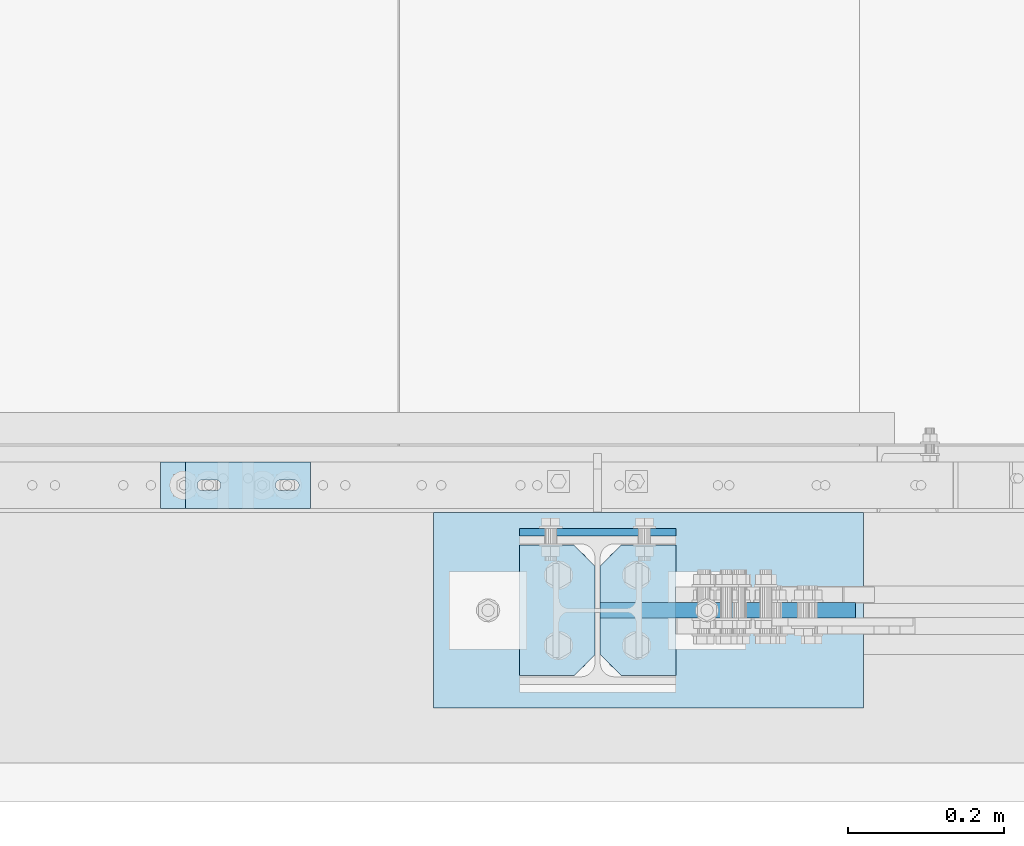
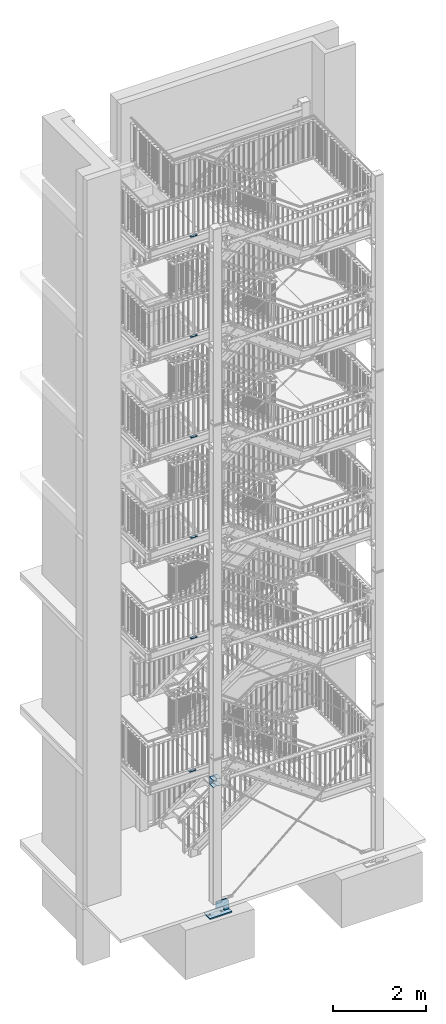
# One storey, part 149 of 825: 13 plates, 34 openings.
"""IFC2X3 building model written with IfcOpenShell, lengths in millimetres."""

from ifc_helpers import new_model, entity, si_unit, converted_unit, point, frame, frame_2d, origin, origin_with_axes, origin_2d_with_axis, place, context, project, spatial, polyline, circle_curve, line_curve, trimmed, segment, composite_curve, circle, outline, extrude, material, layer, layer_set, element, save


model = new_model("IFC2X3")

# Units and contexts
model_context = context("Model", 3, precision=1e-09, world=origin_with_axes())
ifc_project = project(units=[si_unit("LENGTHUNIT", "METRE", prefix="MILLI"), si_unit("AREAUNIT", "SQUARE_METRE"), si_unit("VOLUMEUNIT", "CUBIC_METRE"), converted_unit("PLANEANGLEUNIT", "DEGREE", entity("IfcPlaneAngleMeasure", 0.01745329), si_unit("PLANEANGLEUNIT", "RADIAN"), dimensions=[0, 0, 0, 0, 0, 0, 0])], contexts=[model_context])

# Site, building, storey
site_placement = place(None, origin_with_axes())
site = spatial("IfcSite", under=ifc_project, at=site_placement, Name="Cnopf'sche Kinderklinik", CompositionType="ELEMENT")
building_placement = place(site_placement, origin_with_axes())
building = spatial("IfcBuilding", under=site, at=building_placement, Name="Struktur 1", CompositionType="ELEMENT")
storey_placement = place(building_placement, origin_with_axes())
storey = spatial("IfcBuildingStorey", under=building, at=storey_placement, Name="Default Storey", CompositionType="ELEMENT", Elevation=0.0)

# Plate, openings
ifc_material = material(Name="S235JR")
ifc_layer_1 = layer(ifc_material, 20.0)
ifc_layer_set_1 = layer_set([ifc_layer_1], Name="S235JR")
plate_1_placement = place(None, frame((4297.865638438, 4496.736971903, 3847.0), z_axis=(0.0, 0.0, 1.0), x_axis=(1.0, 0.0, 0.0)))
plate_1 = element("IfcPlate", 1, at=plate_1_placement, inside=storey, material=ifc_layer_set_1, Name="Plate#511", ObjectType="Plate#511", context=model_context, shape_type="SweptSolid", body=[
    extrude(outline(polyline([(0.0, 0.0), (160.0, 0.0), (160.0, 60.0), (0.0, 60.0), (0.0, 0.0)])), origin_with_axes(), (0.0, 0.0, 1.0), 20.0),
])
opening_1_placement = place(plate_1_placement, frame((38.0, 37.001, 20.5), z_axis=(0.0, 0.0, 1.0), x_axis=(-1.0, 0.0, 0.0)))
element("IfcOpeningElement", 2, at=opening_1_placement, cuts=plate_1, ObjectType="Opening", context=model_context, shape_type="SweptSolid", body=[
    extrude(outline(composite_curve([segment(trimmed(line_curve((0.0, 0.0), (1.0, 0.0), 16.0), [point((0.0, 0.0))], [point((16.0, 0.0))], True, "CARTESIAN"), True, "CONTINUOUS"), segment(trimmed(circle_curve(frame_2d((16.0, 7.001), x_axis=(1.0, 0.0)), 7.001), [point((16.0, 0.0))], [point((16.0, 14.002))], True, "CARTESIAN"), True, "CONTINUOUS"), segment(trimmed(line_curve((16.0, 14.002), (-1.0, 0.0), 16.0), [point((16.0, 14.002))], [point((0.0, 14.002))], True, "CARTESIAN"), True, "CONTINUOUS"), segment(trimmed(circle_curve(frame_2d((0.0, 7.001), x_axis=(1.0, 0.0)), 7.001), [point((0.0, 14.002))], [point((0.0, 0.0))], True, "CARTESIAN"), True, "CONTINUOUS")], self_intersect=False)), origin(), (0.0, 0.0, -1.0), 21.0),
])
opening_2_placement = place(plate_1_placement, frame((138.0, 37.001, 20.5), z_axis=(0.0, 0.0, 1.0), x_axis=(-1.0, 0.0, 0.0)))
element("IfcOpeningElement", 3, at=opening_2_placement, cuts=plate_1, ObjectType="Opening", context=model_context, shape_type="SweptSolid", body=[
    extrude(outline(composite_curve([segment(trimmed(line_curve((0.0, 0.0), (1.0, 0.0), 16.0), [point((0.0, 0.0))], [point((16.0, 0.0))], True, "CARTESIAN"), True, "CONTINUOUS"), segment(trimmed(circle_curve(frame_2d((16.0, 7.001), x_axis=(1.0, 0.0)), 7.001), [point((16.0, 0.0))], [point((16.0, 14.002))], True, "CARTESIAN"), True, "CONTINUOUS"), segment(trimmed(line_curve((16.0, 14.002), (-1.0, 0.0), 16.0), [point((16.0, 14.002))], [point((0.0, 14.002))], True, "CARTESIAN"), True, "CONTINUOUS"), segment(trimmed(circle_curve(frame_2d((0.0, 7.001), x_axis=(1.0, 0.0)), 7.001), [point((0.0, 14.002))], [point((0.0, 0.0))], True, "CARTESIAN"), True, "CONTINUOUS")], self_intersect=False)), origin(), (0.0, 0.0, -1.0), 21.0),
])

plate_2_placement = place(None, frame((4329.791688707, 4496.736971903, 7320.0), z_axis=(0.0, 0.0, 1.0), x_axis=(1.0, 0.0, 0.0)))
plate_2 = element("IfcPlate", 4, at=plate_2_placement, inside=storey, material=ifc_layer_set_1, Name="Plate#512", ObjectType="Plate#512", context=model_context, shape_type="SweptSolid", body=[
    extrude(outline(polyline([(0.0, 0.0), (160.0, 0.0), (160.0, 60.0), (0.0, 60.0), (0.0, 0.0)])), origin_with_axes(), (0.0, 0.0, 1.0), 20.0),
])
opening_3_placement = place(plate_2_placement, frame((38.0, 37.001, 20.5), z_axis=(0.0, 0.0, 1.0), x_axis=(-1.0, 0.0, 0.0)))
element("IfcOpeningElement", 5, at=opening_3_placement, cuts=plate_2, ObjectType="Opening", context=model_context, shape_type="SweptSolid", body=[
    extrude(outline(composite_curve([segment(trimmed(line_curve((0.0, 0.0), (1.0, 0.0), 16.0), [point((0.0, 0.0))], [point((16.0, 0.0))], True, "CARTESIAN"), True, "CONTINUOUS"), segment(trimmed(circle_curve(frame_2d((16.0, 7.001), x_axis=(1.0, 0.0)), 7.001), [point((16.0, 0.0))], [point((16.0, 14.002))], True, "CARTESIAN"), True, "CONTINUOUS"), segment(trimmed(line_curve((16.0, 14.002), (-1.0, 0.0), 16.0), [point((16.0, 14.002))], [point((0.0, 14.002))], True, "CARTESIAN"), True, "CONTINUOUS"), segment(trimmed(circle_curve(frame_2d((0.0, 7.001), x_axis=(1.0, 0.0)), 7.001), [point((0.0, 14.002))], [point((0.0, 0.0))], True, "CARTESIAN"), True, "CONTINUOUS")], self_intersect=False)), origin(), (0.0, 0.0, -1.0), 21.0),
])
opening_4_placement = place(plate_2_placement, frame((138.0, 37.001, 20.5), z_axis=(0.0, 0.0, 1.0), x_axis=(-1.0, 0.0, 0.0)))
element("IfcOpeningElement", 6, at=opening_4_placement, cuts=plate_2, ObjectType="Opening", context=model_context, shape_type="SweptSolid", body=[
    extrude(outline(composite_curve([segment(trimmed(line_curve((0.0, 0.0), (1.0, 0.0), 16.0), [point((0.0, 0.0))], [point((16.0, 0.0))], True, "CARTESIAN"), True, "CONTINUOUS"), segment(trimmed(circle_curve(frame_2d((16.0, 7.001), x_axis=(1.0, 0.0)), 7.001), [point((16.0, 0.0))], [point((16.0, 14.002))], True, "CARTESIAN"), True, "CONTINUOUS"), segment(trimmed(line_curve((16.0, 14.002), (-1.0, 0.0), 16.0), [point((16.0, 14.002))], [point((0.0, 14.002))], True, "CARTESIAN"), True, "CONTINUOUS"), segment(trimmed(circle_curve(frame_2d((0.0, 7.001), x_axis=(1.0, 0.0)), 7.001), [point((0.0, 14.002))], [point((0.0, 0.0))], True, "CARTESIAN"), True, "CONTINUOUS")], self_intersect=False)), origin(), (0.0, 0.0, -1.0), 21.0),
])

plate_3_placement = place(None, frame((4329.791688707, 4496.736971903, 9952.0), z_axis=(0.0, 0.0, 1.0), x_axis=(1.0, 0.0, 0.0)))
plate_3 = element("IfcPlate", 7, at=plate_3_placement, inside=storey, material=ifc_layer_set_1, Name="Plate#512", ObjectType="Plate#512", context=model_context, shape_type="SweptSolid", body=[
    extrude(outline(polyline([(0.0, 0.0), (160.0, 0.0), (160.0, 60.0), (0.0, 60.0), (0.0, 0.0)])), origin_with_axes(), (0.0, 0.0, 1.0), 20.0),
])
opening_5_placement = place(plate_3_placement, frame((38.0, 37.001, 20.5), z_axis=(0.0, 0.0, 1.0), x_axis=(-1.0, 0.0, 0.0)))
element("IfcOpeningElement", 8, at=opening_5_placement, cuts=plate_3, ObjectType="Opening", context=model_context, shape_type="SweptSolid", body=[
    extrude(outline(composite_curve([segment(trimmed(line_curve((0.0, 0.0), (1.0, 0.0), 16.0), [point((0.0, 0.0))], [point((16.0, 0.0))], True, "CARTESIAN"), True, "CONTINUOUS"), segment(trimmed(circle_curve(frame_2d((16.0, 7.001), x_axis=(1.0, 0.0)), 7.001), [point((16.0, 0.0))], [point((16.0, 14.002))], True, "CARTESIAN"), True, "CONTINUOUS"), segment(trimmed(line_curve((16.0, 14.002), (-1.0, 0.0), 16.0), [point((16.0, 14.002))], [point((0.0, 14.002))], True, "CARTESIAN"), True, "CONTINUOUS"), segment(trimmed(circle_curve(frame_2d((0.0, 7.001), x_axis=(1.0, 0.0)), 7.001), [point((0.0, 14.002))], [point((0.0, 0.0))], True, "CARTESIAN"), True, "CONTINUOUS")], self_intersect=False)), origin(), (0.0, 0.0, -1.0), 21.0),
])
opening_6_placement = place(plate_3_placement, frame((138.0, 37.001, 20.5), z_axis=(0.0, 0.0, 1.0), x_axis=(-1.0, 0.0, 0.0)))
element("IfcOpeningElement", 9, at=opening_6_placement, cuts=plate_3, ObjectType="Opening", context=model_context, shape_type="SweptSolid", body=[
    extrude(outline(composite_curve([segment(trimmed(line_curve((0.0, 0.0), (1.0, 0.0), 16.0), [point((0.0, 0.0))], [point((16.0, 0.0))], True, "CARTESIAN"), True, "CONTINUOUS"), segment(trimmed(circle_curve(frame_2d((16.0, 7.001), x_axis=(1.0, 0.0)), 7.001), [point((16.0, 0.0))], [point((16.0, 14.002))], True, "CARTESIAN"), True, "CONTINUOUS"), segment(trimmed(line_curve((16.0, 14.002), (-1.0, 0.0), 16.0), [point((16.0, 14.002))], [point((0.0, 14.002))], True, "CARTESIAN"), True, "CONTINUOUS"), segment(trimmed(circle_curve(frame_2d((0.0, 7.001), x_axis=(1.0, 0.0)), 7.001), [point((0.0, 14.002))], [point((0.0, 0.0))], True, "CARTESIAN"), True, "CONTINUOUS")], self_intersect=False)), origin(), (0.0, 0.0, -1.0), 21.0),
])

plate_4_placement = place(None, frame((4329.791688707, 4496.736971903, 12579.0), z_axis=(0.0, 0.0, 1.0), x_axis=(1.0, 0.0, 0.0)))
plate_4 = element("IfcPlate", 10, at=plate_4_placement, inside=storey, material=ifc_layer_set_1, Name="Plate#512", ObjectType="Plate#512", context=model_context, shape_type="SweptSolid", body=[
    extrude(outline(polyline([(0.0, 0.0), (160.0, 0.0), (160.0, 60.0), (0.0, 60.0), (0.0, 0.0)])), origin_with_axes(), (0.0, 0.0, 1.0), 20.0),
])
opening_7_placement = place(plate_4_placement, frame((38.0, 37.001, 20.5), z_axis=(0.0, 0.0, 1.0), x_axis=(-1.0, 0.0, 0.0)))
element("IfcOpeningElement", 11, at=opening_7_placement, cuts=plate_4, ObjectType="Opening", context=model_context, shape_type="SweptSolid", body=[
    extrude(outline(composite_curve([segment(trimmed(line_curve((0.0, 0.0), (1.0, 0.0), 16.0), [point((0.0, 0.0))], [point((16.0, 0.0))], True, "CARTESIAN"), True, "CONTINUOUS"), segment(trimmed(circle_curve(frame_2d((16.0, 7.001), x_axis=(1.0, 0.0)), 7.001), [point((16.0, 0.0))], [point((16.0, 14.002))], True, "CARTESIAN"), True, "CONTINUOUS"), segment(trimmed(line_curve((16.0, 14.002), (-1.0, 0.0), 16.0), [point((16.0, 14.002))], [point((0.0, 14.002))], True, "CARTESIAN"), True, "CONTINUOUS"), segment(trimmed(circle_curve(frame_2d((0.0, 7.001), x_axis=(1.0, 0.0)), 7.001), [point((0.0, 14.002))], [point((0.0, 0.0))], True, "CARTESIAN"), True, "CONTINUOUS")], self_intersect=False)), origin(), (0.0, 0.0, -1.0), 21.0),
])
opening_8_placement = place(plate_4_placement, frame((138.0, 37.001, 20.5), z_axis=(0.0, 0.0, 1.0), x_axis=(-1.0, 0.0, 0.0)))
element("IfcOpeningElement", 12, at=opening_8_placement, cuts=plate_4, ObjectType="Opening", context=model_context, shape_type="SweptSolid", body=[
    extrude(outline(composite_curve([segment(trimmed(line_curve((0.0, 0.0), (1.0, 0.0), 16.0), [point((0.0, 0.0))], [point((16.0, 0.0))], True, "CARTESIAN"), True, "CONTINUOUS"), segment(trimmed(circle_curve(frame_2d((16.0, 7.001), x_axis=(1.0, 0.0)), 7.001), [point((16.0, 0.0))], [point((16.0, 14.002))], True, "CARTESIAN"), True, "CONTINUOUS"), segment(trimmed(line_curve((16.0, 14.002), (-1.0, 0.0), 16.0), [point((16.0, 14.002))], [point((0.0, 14.002))], True, "CARTESIAN"), True, "CONTINUOUS"), segment(trimmed(circle_curve(frame_2d((0.0, 7.001), x_axis=(1.0, 0.0)), 7.001), [point((0.0, 14.002))], [point((0.0, 0.0))], True, "CARTESIAN"), True, "CONTINUOUS")], self_intersect=False)), origin(), (0.0, 0.0, -1.0), 21.0),
])

plate_5_placement = place(None, frame((4329.791688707, 4496.736971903, 15214.0), z_axis=(0.0, 0.0, 1.0), x_axis=(1.0, 0.0, 0.0)))
plate_5 = element("IfcPlate", 13, at=plate_5_placement, inside=storey, material=ifc_layer_set_1, Name="Plate#512", ObjectType="Plate#512", context=model_context, shape_type="SweptSolid", body=[
    extrude(outline(polyline([(0.0, 0.0), (160.0, 0.0), (160.0, 60.0), (0.0, 60.0), (0.0, 0.0)])), origin_with_axes(), (0.0, 0.0, 1.0), 20.0),
])
opening_9_placement = place(plate_5_placement, frame((38.0, 37.001, 20.5), z_axis=(0.0, 0.0, 1.0), x_axis=(-1.0, 0.0, 0.0)))
element("IfcOpeningElement", 14, at=opening_9_placement, cuts=plate_5, ObjectType="Opening", context=model_context, shape_type="SweptSolid", body=[
    extrude(outline(composite_curve([segment(trimmed(line_curve((0.0, 0.0), (1.0, 0.0), 16.0), [point((0.0, 0.0))], [point((16.0, 0.0))], True, "CARTESIAN"), True, "CONTINUOUS"), segment(trimmed(circle_curve(frame_2d((16.0, 7.001), x_axis=(1.0, 0.0)), 7.001), [point((16.0, 0.0))], [point((16.0, 14.002))], True, "CARTESIAN"), True, "CONTINUOUS"), segment(trimmed(line_curve((16.0, 14.002), (-1.0, 0.0), 16.0), [point((16.0, 14.002))], [point((0.0, 14.002))], True, "CARTESIAN"), True, "CONTINUOUS"), segment(trimmed(circle_curve(frame_2d((0.0, 7.001), x_axis=(1.0, 0.0)), 7.001), [point((0.0, 14.002))], [point((0.0, 0.0))], True, "CARTESIAN"), True, "CONTINUOUS")], self_intersect=False)), origin(), (0.0, 0.0, -1.0), 21.0),
])
opening_10_placement = place(plate_5_placement, frame((138.0, 37.001, 20.5), z_axis=(0.0, 0.0, 1.0), x_axis=(-1.0, 0.0, 0.0)))
element("IfcOpeningElement", 15, at=opening_10_placement, cuts=plate_5, ObjectType="Opening", context=model_context, shape_type="SweptSolid", body=[
    extrude(outline(composite_curve([segment(trimmed(line_curve((0.0, 0.0), (1.0, 0.0), 16.0), [point((0.0, 0.0))], [point((16.0, 0.0))], True, "CARTESIAN"), True, "CONTINUOUS"), segment(trimmed(circle_curve(frame_2d((16.0, 7.001), x_axis=(1.0, 0.0)), 7.001), [point((16.0, 0.0))], [point((16.0, 14.002))], True, "CARTESIAN"), True, "CONTINUOUS"), segment(trimmed(line_curve((16.0, 14.002), (-1.0, 0.0), 16.0), [point((16.0, 14.002))], [point((0.0, 14.002))], True, "CARTESIAN"), True, "CONTINUOUS"), segment(trimmed(circle_curve(frame_2d((0.0, 7.001), x_axis=(1.0, 0.0)), 7.001), [point((0.0, 14.002))], [point((0.0, 0.0))], True, "CARTESIAN"), True, "CONTINUOUS")], self_intersect=False)), origin(), (0.0, 0.0, -1.0), 21.0),
])

plate_6_placement = place(None, frame((4329.791688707, 4496.736971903, 17834.0), z_axis=(0.0, 0.0, 1.0), x_axis=(1.0, 0.0, 0.0)))
plate_6 = element("IfcPlate", 16, at=plate_6_placement, inside=storey, material=ifc_layer_set_1, Name="Plate#512", ObjectType="Plate#512", context=model_context, shape_type="SweptSolid", body=[
    extrude(outline(polyline([(0.0, 0.0), (160.0, 0.0), (160.0, 60.0), (0.0, 60.0), (0.0, 0.0)])), origin_with_axes(), (0.0, 0.0, 1.0), 20.0),
])
opening_11_placement = place(plate_6_placement, frame((38.0, 37.001, 20.5), z_axis=(0.0, 0.0, 1.0), x_axis=(-1.0, 0.0, 0.0)))
element("IfcOpeningElement", 17, at=opening_11_placement, cuts=plate_6, ObjectType="Opening", context=model_context, shape_type="SweptSolid", body=[
    extrude(outline(composite_curve([segment(trimmed(line_curve((0.0, 0.0), (1.0, 0.0), 16.0), [point((0.0, 0.0))], [point((16.0, 0.0))], True, "CARTESIAN"), True, "CONTINUOUS"), segment(trimmed(circle_curve(frame_2d((16.0, 7.001), x_axis=(1.0, 0.0)), 7.001), [point((16.0, 0.0))], [point((16.0, 14.002))], True, "CARTESIAN"), True, "CONTINUOUS"), segment(trimmed(line_curve((16.0, 14.002), (-1.0, 0.0), 16.0), [point((16.0, 14.002))], [point((0.0, 14.002))], True, "CARTESIAN"), True, "CONTINUOUS"), segment(trimmed(circle_curve(frame_2d((0.0, 7.001), x_axis=(1.0, 0.0)), 7.001), [point((0.0, 14.002))], [point((0.0, 0.0))], True, "CARTESIAN"), True, "CONTINUOUS")], self_intersect=False)), origin(), (0.0, 0.0, -1.0), 21.0),
])
opening_12_placement = place(plate_6_placement, frame((138.0, 37.001, 20.5), z_axis=(0.0, 0.0, 1.0), x_axis=(-1.0, 0.0, 0.0)))
element("IfcOpeningElement", 18, at=opening_12_placement, cuts=plate_6, ObjectType="Opening", context=model_context, shape_type="SweptSolid", body=[
    extrude(outline(composite_curve([segment(trimmed(line_curve((0.0, 0.0), (1.0, 0.0), 16.0), [point((0.0, 0.0))], [point((16.0, 0.0))], True, "CARTESIAN"), True, "CONTINUOUS"), segment(trimmed(circle_curve(frame_2d((16.0, 7.001), x_axis=(1.0, 0.0)), 7.001), [point((16.0, 0.0))], [point((16.0, 14.002))], True, "CARTESIAN"), True, "CONTINUOUS"), segment(trimmed(line_curve((16.0, 14.002), (-1.0, 0.0), 16.0), [point((16.0, 14.002))], [point((0.0, 14.002))], True, "CARTESIAN"), True, "CONTINUOUS"), segment(trimmed(circle_curve(frame_2d((0.0, 7.001), x_axis=(1.0, 0.0)), 7.001), [point((0.0, 14.002))], [point((0.0, 0.0))], True, "CARTESIAN"), True, "CONTINUOUS")], self_intersect=False)), origin(), (0.0, 0.0, -1.0), 21.0),
])

ifc_layer_2 = layer(ifc_material, 30.0)
ifc_layer_set_2 = layer_set([ifc_layer_2], Name="S235JR")
plate_7_placement = place(None, frame((4921.713402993, 4366.736971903, 30.0), z_axis=(0.0, 0.0, 1.0), x_axis=(1.0, 0.0, 0.0)))
plate_7 = element("IfcPlate", 19, at=plate_7_placement, inside=storey, material=ifc_layer_set_2, Name="-", ObjectType="-", context=model_context, shape_type="SweptSolid", body=[
    extrude(outline(polyline([(-275.0, -125.0), (275.0, -125.0), (275.0, 125.0), (-275.0, 125.0), (-275.0, -125.0)])), origin_with_axes(), (0.0, 0.0, 1.0), 30.0),
])
opening_13_placement = place(plate_7_placement, frame((-65.0, 0.0, -0.5), z_axis=(0.0, 0.0, 1.0), x_axis=(1.0, 0.0, 0.0)))
element("IfcOpeningElement", 20, at=opening_13_placement, cuts=plate_7, ObjectType="Opening", context=model_context, shape_type="SweptSolid", body=[
    extrude(circle(Radius=28.001, at=frame_2d((140.0, 0.0), x_axis=(1.0, 0.0))), origin(), (0.0, 0.0, 1.0), 31.0),
])
opening_14_placement = place(plate_7_placement, frame((-65.0, 0.0, -0.5), z_axis=(0.0, 0.0, 1.0), x_axis=(1.0, 0.0, 0.0)))
element("IfcOpeningElement", 21, at=opening_14_placement, cuts=plate_7, ObjectType="Opening", context=model_context, shape_type="SweptSolid", body=[
    extrude(circle(Radius=28.001, at=frame_2d((-140.0, 0.0), x_axis=(1.0, 0.0))), origin(), (0.0, 0.0, 1.0), 31.0),
])

plate_8_placement = place(None, frame((5023.338402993, 4376.736971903, 206.477386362), z_axis=(0.0, -1.0, 0.0), x_axis=(1.0, 0.0, 0.0)))
plate_8 = element("IfcPlate", 22, at=plate_8_placement, inside=storey, material=ifc_layer_set_1, Name="-", ObjectType="-", context=model_context, shape_type="SweptSolid", body=[
    extrude(outline(polyline([(-163.375, -146.477386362), (163.375, -146.477386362), (163.375, 146.477386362), (-163.375, 146.477386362), (-163.375, -146.477386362)])), origin_with_axes(), (0.0, 0.0, 1.0), 20.0),
])
opening_15_placement = place(plate_8_placement, frame((0.0, 0.0, -0.1), z_axis=(0.0, 0.0, 1.0), x_axis=(1.0, 0.0, 0.0)))
element("IfcOpeningElement", 23, at=opening_15_placement, cuts=plate_8, ObjectType="Opening", context=model_context, shape_type="SweptSolid", body=[
    extrude(outline(composite_curve([segment(trimmed(circle_curve(frame_2d((-198.468160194, -200.200309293), x_axis=(1.0, 0.0)), 40.0), [point((-238.468160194, -200.200309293))], [point((-198.468160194, -240.200309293))], True, "CARTESIAN"), True, "CONTINUOUS"), segment(trimmed(line_curve((-198.468160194, -240.200309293), (1.0, 0.0), 201.844160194), [point((-198.468160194, -240.200309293))], [point((3.376, -240.200309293))], True, "CARTESIAN"), True, "CONTINUOUS"), segment(trimmed(circle_curve(frame_2d((3.376, -200.200309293), x_axis=(1.0, 0.0)), 40.0), [point((3.376, -240.200309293))], [point((43.376, -200.200309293))], True, "CARTESIAN"), True, "CONTINUOUS"), segment(trimmed(line_curve((43.376, -200.200309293), (0.0, 1.0), 126.678695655), [point((43.376, -200.200309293))], [point((43.376, -73.521613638))], True, "CARTESIAN"), True, "CONTINUOUS"), segment(trimmed(circle_curve(frame_2d((3.376, -73.521613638), x_axis=(1.0, 0.0)), 40.0), [point((43.376, -73.521613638))], [point((3.376, -33.521613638))], True, "CARTESIAN"), True, "CONTINUOUS"), segment(trimmed(line_curve((3.376, -33.521613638), (-1.0, 0.0), 201.844160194), [point((3.376, -33.521613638))], [point((-198.468160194, -33.521613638))], True, "CARTESIAN"), True, "CONTINUOUS"), segment(trimmed(circle_curve(frame_2d((-198.468160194, -73.521613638), x_axis=(1.0, 0.0)), 40.0), [point((-198.468160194, -33.521613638))], [point((-238.468160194, -73.521613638))], True, "CARTESIAN"), True, "CONTINUOUS"), segment(trimmed(line_curve((-238.468160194, -73.521613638), (0.0, -1.0), 126.678695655), [point((-238.468160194, -73.521613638))], [point((-238.468160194, -200.200309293))], True, "CARTESIAN"), True, "CONTINUOUS")], self_intersect=False)), origin(), (0.0, 0.0, 1.0), 20.2),
])
opening_16_placement = place(plate_8_placement, frame((0.0, 0.0, -0.1), z_axis=(0.0, 0.0, 1.0), x_axis=(1.0, 0.0, 0.0)))
element("IfcOpeningElement", 24, at=opening_16_placement, cuts=plate_8, ObjectType="Opening", context=model_context, shape_type="SweptSolid", body=[
    extrude(outline(polyline([(82.436515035, 172.110953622), (190.565633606, 45.142354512), (190.565633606, 188.31649289), (82.436515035, 172.110953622)])), origin(), (0.0, 0.0, 1.0), 20.2),
])
opening_17_placement = place(plate_8_placement, frame((84.23057179, 69.47110058, -0.5), z_axis=(0.0, 0.0, 1.0), x_axis=(0.757867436, 0.652408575, 0.0)))
element("IfcOpeningElement", 25, at=opening_17_placement, cuts=plate_8, ObjectType="Opening", context=model_context, shape_type="SweptSolid", body=[
    extrude(circle(Radius=9.001, at=frame_2d((30.0, 0.0), x_axis=(1.0, 0.0))), origin(), (0.0, 0.0, 1.0), 21.0),
])
opening_18_placement = place(plate_8_placement, frame((84.23057179, 69.47110058, -0.5), z_axis=(0.0, 0.0, 1.0), x_axis=(0.757867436, 0.652408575, 0.0)))
element("IfcOpeningElement", 26, at=opening_18_placement, cuts=plate_8, ObjectType="Opening", context=model_context, shape_type="SweptSolid", body=[
    extrude(circle(Radius=9.001, at=frame_2d((-30.0, 0.0), x_axis=(1.0, 0.0))), origin(), (0.0, 0.0, 1.0), 21.0),
])

ifc_layer_3 = layer(ifc_material, 10.0)
ifc_layer_set_3 = layer_set([ifc_layer_3], Name="S235JR")
plate_9_placement = place(None, frame((4856.713402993, 4471.736971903, 3512.0), z_axis=(0.0, -1.0, 0.0), x_axis=(0.0, 0.0, -1.0)))
plate_9 = element("IfcPlate", 27, at=plate_9_placement, inside=storey, material=ifc_layer_set_3, Name="Endplate", ObjectType="Endplate", context=model_context, shape_type="SweptSolid", body=[
    extrude(outline(polyline([(-90.0, -100.0), (90.0, -100.0), (90.0, 100.0), (-90.0, 100.0), (-90.0, -100.0)])), origin_with_axes(), (0.0, 0.0, 1.0), 10.0),
])
opening_19_placement = place(plate_9_placement, frame((-67.0, -21.25, 10.5), z_axis=(0.0, 0.0, -1.0), x_axis=(1.0, 0.0, 0.0)))
element("IfcOpeningElement", 28, at=opening_19_placement, cuts=plate_9, ObjectType="Opening", context=model_context, shape_type="SweptSolid", body=[
    extrude(circle(Radius=6.001, at=origin_2d_with_axis()), origin(), (0.0, 0.0, 1.0), 11.0),
])
opening_20_placement = place(plate_9_placement, frame((67.0, -21.25, 10.5), z_axis=(0.0, 0.0, -1.0), x_axis=(1.0, 0.0, 0.0)))
element("IfcOpeningElement", 29, at=opening_20_placement, cuts=plate_9, ObjectType="Opening", context=model_context, shape_type="SweptSolid", body=[
    extrude(circle(Radius=6.001, at=origin_2d_with_axis()), origin(), (0.0, 0.0, 1.0), 11.0),
])
opening_21_placement = place(plate_9_placement, frame((67.0, 21.25, 10.5), z_axis=(0.0, 0.0, -1.0), x_axis=(1.0, 0.0, 0.0)))
element("IfcOpeningElement", 30, at=opening_21_placement, cuts=plate_9, ObjectType="Opening", context=model_context, shape_type="SweptSolid", body=[
    extrude(circle(Radius=6.001, at=origin_2d_with_axis()), origin(), (0.0, 0.0, 1.0), 11.0),
])
opening_22_placement = place(plate_9_placement, frame((-67.0, 21.25, 10.5), z_axis=(0.0, 0.0, -1.0), x_axis=(1.0, 0.0, 0.0)))
element("IfcOpeningElement", 31, at=opening_22_placement, cuts=plate_9, ObjectType="Opening", context=model_context, shape_type="SweptSolid", body=[
    extrude(circle(Radius=6.001, at=origin_2d_with_axis()), origin(), (0.0, 0.0, 1.0), 11.0),
])
opening_23_placement = place(plate_9_placement, frame((-45.0, -60.0, 10.5), z_axis=(0.0, 0.0, -1.0), x_axis=(0.0, -1.0, 0.0)))
element("IfcOpeningElement", 32, at=opening_23_placement, cuts=plate_9, ObjectType="Opening", context=model_context, shape_type="SweptSolid", body=[
    extrude(circle(Radius=9.001, at=origin_2d_with_axis()), origin(), (0.0, 0.0, 1.0), 11.0),
])
opening_24_placement = place(plate_9_placement, frame((45.0, 60.0, 10.5), z_axis=(0.0, 0.0, -1.0), x_axis=(0.0, 1.0, 0.0)))
element("IfcOpeningElement", 33, at=opening_24_placement, cuts=plate_9, ObjectType="Opening", context=model_context, shape_type="SweptSolid", body=[
    extrude(circle(Radius=9.001, at=origin_2d_with_axis()), origin(), (0.0, 0.0, 1.0), 11.0),
])
opening_25_placement = place(plate_9_placement, frame((-45.0, 60.0, 10.5), z_axis=(0.0, 0.0, -1.0), x_axis=(0.0, 1.0, 0.0)))
element("IfcOpeningElement", 34, at=opening_25_placement, cuts=plate_9, ObjectType="Opening", context=model_context, shape_type="SweptSolid", body=[
    extrude(circle(Radius=9.001, at=origin_2d_with_axis()), origin(), (0.0, 0.0, 1.0), 11.0),
])
opening_26_placement = place(plate_9_placement, frame((45.0, -60.0, 10.5), z_axis=(0.0, 0.0, -1.0), x_axis=(0.0, -1.0, 0.0)))
element("IfcOpeningElement", 35, at=opening_26_placement, cuts=plate_9, ObjectType="Opening", context=model_context, shape_type="SweptSolid", body=[
    extrude(circle(Radius=9.001, at=origin_2d_with_axis()), origin(), (0.0, 0.0, 1.0), 11.0),
])

plate_10_placement = place(None, frame((4956.713402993, 4450.236971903, 3597.0), z_axis=(0.0, 0.0, 1.0), x_axis=(-1.0, 0.0, 0.0)))
plate_10 = element("IfcPlate", 36, at=plate_10_placement, inside=storey, material=ifc_layer_set_3, Name="Stiffener#1", ObjectType="Stiffener#1", context=model_context, shape_type="SweptSolid", body=[
    extrude(outline(polyline([(0.0, 0.0), (96.75, 0.0), (96.75, 167.0), (0.0, 167.0), (0.0, 0.0)])), origin_with_axes(), (0.0, 0.0, 1.0), 10.0),
])
opening_27_placement = place(plate_10_placement, frame((0.0, 0.0, -0.01), z_axis=(0.0, 0.0, 1.0), x_axis=(1.0, 0.0, 0.0)))
element("IfcOpeningElement", 37, at=opening_27_placement, cuts=plate_10, ObjectType="Opening", context=model_context, shape_type="SweptSolid", body=[
    extrude(outline(polyline([(96.75, 167.0), (69.75, 167.0), (96.75, 140.0), (96.75, 167.0)])), origin(), (0.0, 0.0, 1.0), 10.02),
])
opening_28_placement = place(plate_10_placement, frame((0.0, 0.0, -0.01), z_axis=(0.0, 0.0, 1.0), x_axis=(1.0, 0.0, 0.0)))
element("IfcOpeningElement", 38, at=opening_28_placement, cuts=plate_10, ObjectType="Opening", context=model_context, shape_type="SweptSolid", body=[
    extrude(outline(polyline([(96.75, 0.0), (96.75, 27.0), (69.75, 0.0), (96.75, 0.0)])), origin(), (0.0, 0.0, 1.0), 10.02),
])

plate_11_placement = place(None, frame((4853.463402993, 4450.236971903, 3597.0), z_axis=(0.0, 0.0, 1.0), x_axis=(-1.0, 0.0, 0.0)))
plate_11 = element("IfcPlate", 39, at=plate_11_placement, inside=storey, material=ifc_layer_set_3, Name="Stiffener#2", ObjectType="Stiffener#2", context=model_context, shape_type="SweptSolid", body=[
    extrude(outline(polyline([(0.0, 0.0), (96.75, 0.0), (96.75, 167.0), (0.0, 167.0), (0.0, 0.0)])), origin_with_axes(), (0.0, 0.0, 1.0), 10.0),
])
opening_29_placement = place(plate_11_placement, frame((0.0, 0.0, -0.01), z_axis=(0.0, 0.0, 1.0), x_axis=(1.0, 0.0, 0.0)))
element("IfcOpeningElement", 40, at=opening_29_placement, cuts=plate_11, ObjectType="Opening", context=model_context, shape_type="SweptSolid", body=[
    extrude(outline(polyline([(0.0, 167.0), (0.0, 140.0), (27.0, 167.0), (0.0, 167.0)])), origin(), (0.0, 0.0, 1.0), 10.02),
])
opening_30_placement = place(plate_11_placement, frame((0.0, 0.0, -0.01), z_axis=(0.0, 0.0, 1.0), x_axis=(1.0, 0.0, 0.0)))
element("IfcOpeningElement", 41, at=opening_30_placement, cuts=plate_11, ObjectType="Opening", context=model_context, shape_type="SweptSolid", body=[
    extrude(outline(polyline([(0.0, 0.0), (27.0, 0.0), (0.0, 27.0), (0.0, 0.0)])), origin(), (0.0, 0.0, 1.0), 10.02),
])

plate_12_placement = place(None, frame((4859.963402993, 4450.236971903, 3427.0), z_axis=(0.0, 0.0, -1.0), x_axis=(1.0, 0.0, 0.0)))
plate_12 = element("IfcPlate", 42, at=plate_12_placement, inside=storey, material=ifc_layer_set_3, Name="Stiffener#3", ObjectType="Stiffener#3", context=model_context, shape_type="SweptSolid", body=[
    extrude(outline(polyline([(0.0, 0.0), (96.75, 0.0), (96.75, 167.0), (0.0, 167.0), (0.0, 0.0)])), origin_with_axes(), (0.0, 0.0, 1.0), 10.0),
])
opening_31_placement = place(plate_12_placement, frame((0.0, 0.0, -0.01), z_axis=(0.0, 0.0, 1.0), x_axis=(1.0, 0.0, 0.0)))
element("IfcOpeningElement", 43, at=opening_31_placement, cuts=plate_12, ObjectType="Opening", context=model_context, shape_type="SweptSolid", body=[
    extrude(outline(polyline([(0.0, 167.0), (0.0, 140.0), (27.0, 167.0), (0.0, 167.0)])), origin(), (0.0, 0.0, 1.0), 10.02),
])
opening_32_placement = place(plate_12_placement, frame((0.0, 0.0, -0.01), z_axis=(0.0, 0.0, 1.0), x_axis=(1.0, 0.0, 0.0)))
element("IfcOpeningElement", 44, at=opening_32_placement, cuts=plate_12, ObjectType="Opening", context=model_context, shape_type="SweptSolid", body=[
    extrude(outline(polyline([(0.0, 0.0), (27.0, 0.0), (0.0, 27.0), (0.0, 0.0)])), origin(), (0.0, 0.0, 1.0), 10.02),
])

plate_13_placement = place(None, frame((4756.713402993, 4450.236971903, 3427.0), z_axis=(0.0, 0.0, -1.0), x_axis=(1.0, 0.0, 0.0)))
plate_13 = element("IfcPlate", 45, at=plate_13_placement, inside=storey, material=ifc_layer_set_3, Name="Stiffener#4", ObjectType="Stiffener#4", context=model_context, shape_type="SweptSolid", body=[
    extrude(outline(polyline([(0.0, 0.0), (96.75, 0.0), (96.75, 167.0), (0.0, 167.0), (0.0, 0.0)])), origin_with_axes(), (0.0, 0.0, 1.0), 10.0),
])
opening_33_placement = place(plate_13_placement, frame((0.0, 0.0, -0.01), z_axis=(0.0, 0.0, 1.0), x_axis=(1.0, 0.0, 0.0)))
element("IfcOpeningElement", 46, at=opening_33_placement, cuts=plate_13, ObjectType="Opening", context=model_context, shape_type="SweptSolid", body=[
    extrude(outline(polyline([(96.75, 167.0), (69.75, 167.0), (96.75, 140.0), (96.75, 167.0)])), origin(), (0.0, 0.0, 1.0), 10.02),
])
opening_34_placement = place(plate_13_placement, frame((0.0, 0.0, -0.01), z_axis=(0.0, 0.0, 1.0), x_axis=(1.0, 0.0, 0.0)))
element("IfcOpeningElement", 47, at=opening_34_placement, cuts=plate_13, ObjectType="Opening", context=model_context, shape_type="SweptSolid", body=[
    extrude(outline(polyline([(96.75, 0.0), (96.75, 27.0), (69.75, 0.0), (96.75, 0.0)])), origin(), (0.0, 0.0, 1.0), 10.02),
])

save(model, "model.ifc")
